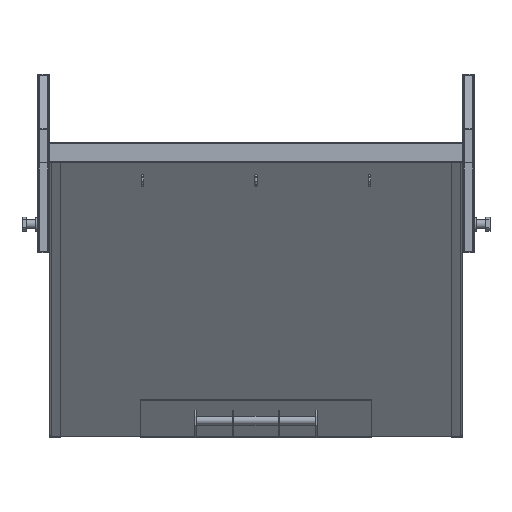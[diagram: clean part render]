
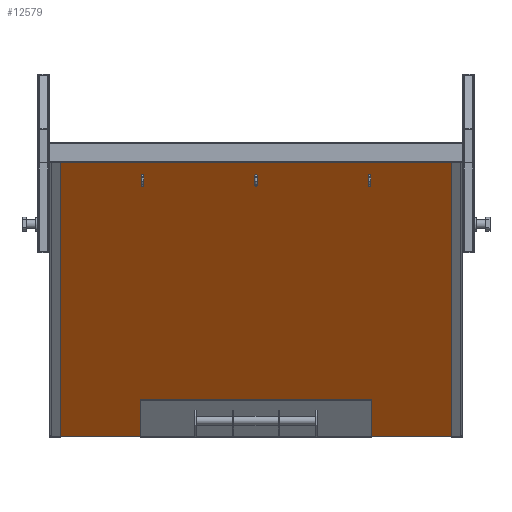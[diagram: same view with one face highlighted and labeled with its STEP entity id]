
A CAD part, left-side view. The second image highlights one B-rep face of the part: STEP entity #12579.
In plain terms, the highlighted planar face has unit normal (-0.812, 0, -0.583).
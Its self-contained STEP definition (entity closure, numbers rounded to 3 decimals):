
#843=PLANE('',#13763);
#1489=FACE_OUTER_BOUND('',#2285,.T.);
#2285=EDGE_LOOP('',(#10661,#10662,#10663,#10664));
#3483=LINE('',#20393,#4685);
#3512=LINE('',#20461,#4714);
#3513=LINE('',#20463,#4715);
#3514=LINE('',#20464,#4716);
#4685=VECTOR('',#16607,1484.092);
#4714=VECTOR('',#16676,1800.);
#4715=VECTOR('',#16679,1484.092);
#4716=VECTOR('',#16680,1800.);
#6147=VERTEX_POINT('',#20383);
#6151=VERTEX_POINT('',#20392);
#6155=VERTEX_POINT('',#20401);
#6170=VERTEX_POINT('',#20459);
#7725=EDGE_CURVE('',#6151,#6147,#3483,.T.);
#7760=EDGE_CURVE('',#6151,#6170,#3512,.T.);
#7761=EDGE_CURVE('',#6170,#6155,#3513,.T.);
#7762=EDGE_CURVE('',#6147,#6155,#3514,.T.);
#10661=ORIENTED_EDGE('',*,*,#7761,.T.);
#10662=ORIENTED_EDGE('',*,*,#7762,.F.);
#10663=ORIENTED_EDGE('',*,*,#7725,.F.);
#10664=ORIENTED_EDGE('',*,*,#7760,.T.);
#12579=ADVANCED_FACE('',(#1489),#843,.F.);
#13763=AXIS2_PLACEMENT_3D('',#20462,#16677,#16678);
#16607=DIRECTION('',(0.583,0.,-0.812));
#16676=DIRECTION('',(0.,1.,0.));
#16677=DIRECTION('center_axis',(0.812,0.,
0.583));
#16678=DIRECTION('ref_axis',(0.,1.,0.));
#16679=DIRECTION('',(0.583,0.,-0.812));
#16680=DIRECTION('',(0.,1.,0.));
#20383=CARTESIAN_POINT('',(-911.918,-900.,4.334));
#20392=CARTESIAN_POINT('',(-1777.307,-900.,1210.));
#20393=CARTESIAN_POINT('',(-1777.307,-900.,1210.));
#20401=CARTESIAN_POINT('',(-911.918,900.,4.334));
#20459=CARTESIAN_POINT('',(-1777.307,900.,1210.));
#20461=CARTESIAN_POINT('',(-1777.307,-900.,1210.));
#20462=CARTESIAN_POINT('Origin',(-1777.307,-900.,1210.));
#20463=CARTESIAN_POINT('',(-1777.307,900.,1210.));
#20464=CARTESIAN_POINT('',(-911.918,-900.,4.334));
